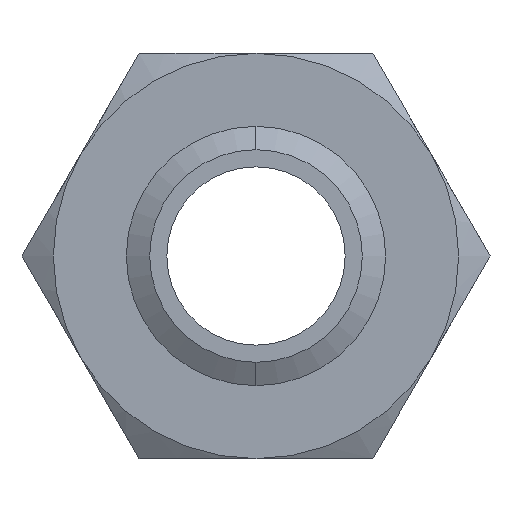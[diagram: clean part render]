
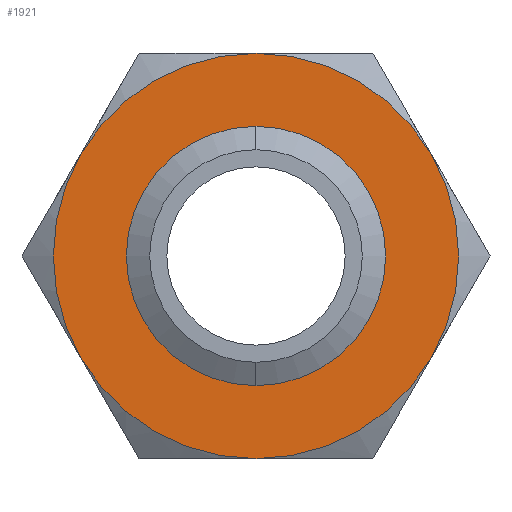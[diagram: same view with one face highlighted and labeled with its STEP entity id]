
A CAD part, front view. The second image highlights one B-rep face of the part: STEP entity #1921.
In plain terms, the highlighted planar face has unit normal (0, -1, 0).
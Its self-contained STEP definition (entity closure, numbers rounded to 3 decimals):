
#270 = ORIENTED_EDGE ( 'NONE', *, *, #1948, .F. ) ;
#271 = ORIENTED_EDGE ( 'NONE', *, *, #272, .F. ) ;
#272 = EDGE_CURVE ( 'NONE', #1942, #1946, #913, .T. ) ;
#274 = ORIENTED_EDGE ( 'NONE', *, *, #275, .F. ) ;
#275 = EDGE_CURVE ( 'NONE', #1917, #1893, #907, .T. ) ;
#903 = DIRECTION ( 'NONE',  ( 0., 0., 1. ) ) ;
#904 = DIRECTION ( 'NONE',  ( 0., 1., 0. ) ) ;
#905 = CARTESIAN_POINT ( 'NONE',  ( 0., 0., 0. ) ) ;
#906 = AXIS2_PLACEMENT_3D ( 'NONE', #905, #904, #903 ) ;
#907 = CIRCLE ( 'NONE', #906, 37.5 ) ;
#909 = DIRECTION ( 'NONE',  ( 0., 0., -1. ) ) ;
#910 = DIRECTION ( 'NONE',  ( 0., -1., 0. ) ) ;
#911 = CARTESIAN_POINT ( 'NONE',  ( 0., 0., 0. ) ) ;
#912 = AXIS2_PLACEMENT_3D ( 'NONE', #911, #910, #909 ) ;
#913 = CIRCLE ( 'NONE', #912, 19.67 ) ;
#1319 = CARTESIAN_POINT ( 'NONE',  ( 0., 0., -37.5 ) ) ;
#1320 = DIRECTION ( 'NONE',  ( 0., 0., 1. ) ) ;
#1321 = DIRECTION ( 'NONE',  ( 0., 1., 0. ) ) ;
#1322 = CARTESIAN_POINT ( 'NONE',  ( 0., 0., 0. ) ) ;
#1323 = AXIS2_PLACEMENT_3D ( 'NONE', #1322, #1321, #1320 ) ;
#1324 = CIRCLE ( 'NONE', #1323, 37.5 ) ;
#1344 = CARTESIAN_POINT ( 'NONE',  ( 0., 0., 37.5 ) ) ;
#1345 = CARTESIAN_POINT ( 'NONE',  ( 32.476, 0., -18.75 ) ) ;
#1346 = CARTESIAN_POINT ( 'NONE',  ( -32.476, 0., -18.75 ) ) ;
#1354 = DIRECTION ( 'NONE',  ( 0., 0., 1. ) ) ;
#1355 = DIRECTION ( 'NONE',  ( 0., 1., 0. ) ) ;
#1356 = CARTESIAN_POINT ( 'NONE',  ( 21.651, 0., -37.5 ) ) ;
#1357 = AXIS2_PLACEMENT_3D ( 'NONE', #1356, #1355, #1354 ) ;
#1358 = PLANE ( 'NONE',  #1357 ) ;
#1359 = FACE_BOUND ( 'NONE', #1896, .T. ) ;
#1360 = FACE_OUTER_BOUND ( 'NONE', #1904, .T. ) ;
#1361 = DIRECTION ( 'NONE',  ( 0., 0., 1. ) ) ;
#1362 = DIRECTION ( 'NONE',  ( 0., 1., 0. ) ) ;
#1363 = CARTESIAN_POINT ( 'NONE',  ( 0., 0., 0. ) ) ;
#1364 = AXIS2_PLACEMENT_3D ( 'NONE', #1363, #1362, #1361 ) ;
#1365 = CIRCLE ( 'NONE', #1364, 37.5 ) ;
#1366 = DIRECTION ( 'NONE',  ( 0., 0., 1. ) ) ;
#1367 = DIRECTION ( 'NONE',  ( 0., 1., 0. ) ) ;
#1368 = CARTESIAN_POINT ( 'NONE',  ( 0., 0., 0. ) ) ;
#1369 = AXIS2_PLACEMENT_3D ( 'NONE', #1368, #1367, #1366 ) ;
#1370 = CIRCLE ( 'NONE', #1369, 37.5 ) ;
#1371 = CARTESIAN_POINT ( 'NONE',  ( 32.476, 0., 18.75 ) ) ;
#1372 = DIRECTION ( 'NONE',  ( 0., 0., 1. ) ) ;
#1373 = DIRECTION ( 'NONE',  ( 0., 1., 0. ) ) ;
#1374 = CARTESIAN_POINT ( 'NONE',  ( 0., 0., 0. ) ) ;
#1375 = AXIS2_PLACEMENT_3D ( 'NONE', #1374, #1373, #1372 ) ;
#1376 = CIRCLE ( 'NONE', #1375, 37.5 ) ;
#1377 = DIRECTION ( 'NONE',  ( 0., 0., 1. ) ) ;
#1378 = DIRECTION ( 'NONE',  ( 0., 1., 0. ) ) ;
#1379 = CARTESIAN_POINT ( 'NONE',  ( 0., 0., 0. ) ) ;
#1380 = AXIS2_PLACEMENT_3D ( 'NONE', #1379, #1378, #1377 ) ;
#1381 = CIRCLE ( 'NONE', #1380, 37.5 ) ;
#1382 = CARTESIAN_POINT ( 'NONE',  ( -32.476, 0., 18.75 ) ) ;
#1431 = DIRECTION ( 'NONE',  ( 0., 0., -1. ) ) ;
#1432 = DIRECTION ( 'NONE',  ( 0., -1., 0. ) ) ;
#1433 = CARTESIAN_POINT ( 'NONE',  ( 0., 0., 0. ) ) ;
#1434 = AXIS2_PLACEMENT_3D ( 'NONE', #1433, #1432, #1431 ) ;
#1435 = CIRCLE ( 'NONE', #1434, 19.67 ) ;
#1440 = CARTESIAN_POINT ( 'NONE',  ( 0., 0., -19.67 ) ) ;
#1441 = CARTESIAN_POINT ( 'NONE',  ( 0., 0., 19.67 ) ) ;
#1891 = ORIENTED_EDGE ( 'NONE', *, *, #1920, .F. ) ;
#1892 = VERTEX_POINT ( 'NONE', #1346 ) ;
#1893 = VERTEX_POINT ( 'NONE', #1345 ) ;
#1894 = VERTEX_POINT ( 'NONE', #1344 ) ;
#1896 = EDGE_LOOP ( 'NONE', ( #270, #271 ) ) ;
#1904 = EDGE_LOOP ( 'NONE', ( #1891, #1919, #1915, #1912, #1911, #274 ) ) ;
#1907 = EDGE_CURVE ( 'NONE', #1893, #1910, #1324, .T. ) ;
#1910 = VERTEX_POINT ( 'NONE', #1319 ) ;
#1911 = ORIENTED_EDGE ( 'NONE', *, *, #1907, .F. ) ;
#1912 = ORIENTED_EDGE ( 'NONE', *, *, #1913, .F. ) ;
#1913 = EDGE_CURVE ( 'NONE', #1910, #1892, #1381, .T. ) ;
#1914 = VERTEX_POINT ( 'NONE', #1382 ) ;
#1915 = ORIENTED_EDGE ( 'NONE', *, *, #1916, .F. ) ;
#1916 = EDGE_CURVE ( 'NONE', #1892, #1914, #1376, .T. ) ;
#1917 = VERTEX_POINT ( 'NONE', #1371 ) ;
#1918 = EDGE_CURVE ( 'NONE', #1914, #1894, #1370, .T. ) ;
#1919 = ORIENTED_EDGE ( 'NONE', *, *, #1918, .F. ) ;
#1920 = EDGE_CURVE ( 'NONE', #1894, #1917, #1365, .T. ) ;
#1921 = ADVANCED_FACE ( 'NONE', ( #1360, #1359 ), #1358, .F. ) ;
#1942 = VERTEX_POINT ( 'NONE', #1441 ) ;
#1946 = VERTEX_POINT ( 'NONE', #1440 ) ;
#1948 = EDGE_CURVE ( 'NONE', #1946, #1942, #1435, .T. ) ;
